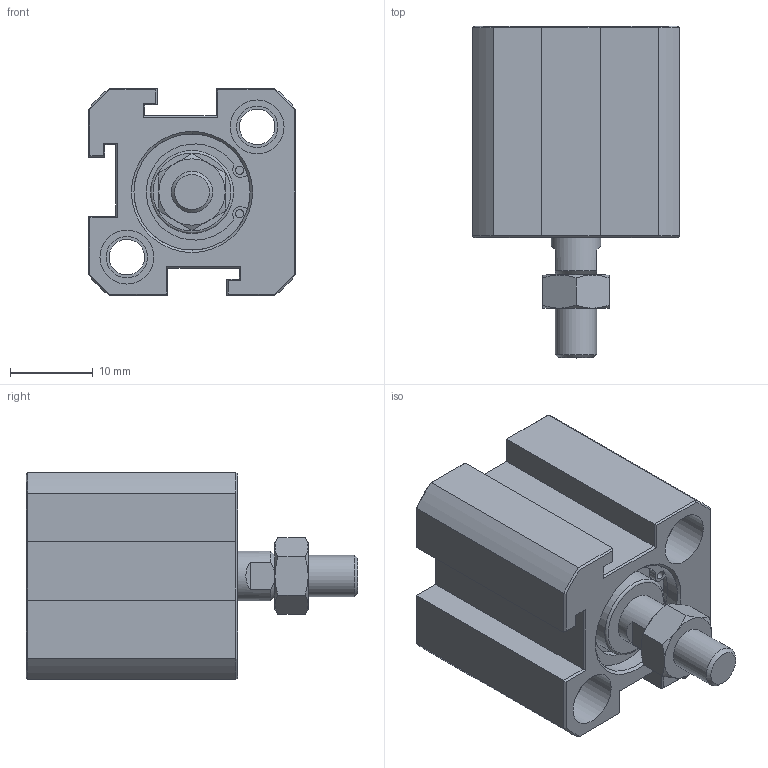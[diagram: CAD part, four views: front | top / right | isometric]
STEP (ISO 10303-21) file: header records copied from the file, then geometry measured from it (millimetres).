
FILE_DESCRIPTION(/* description */ (''),/* implementation_level */ '2;1');
FILE_NAME(/* name */ 'AJC-SD12X5W',/* time_stamp */ '2019-07-05T09:35:46+08:00',/* author */ ('JEFF HUANG'),/* organization */ ('TAIWAN AMAC CLAMP INDUSTRIAL CO., LTD.'),/* preprocessor_version */ 'ST-DEVELOPER v16.7',/* originating_system */ 'DEX',/* authorisation */ $);
FILE_SCHEMA (('AUTOMOTIVE_DESIGN {1 0 10303 214 3 1 1}'));
Length unit declared in the file: millimetre
Products named in the file (1): AJC-SD12X5W
Bounding box: 25 x 40 x 25 mm (x, y, z)
Volume: 12283.6 mm3; surface area: 5893.4 mm2
Topology: 1 solids, 1 shells, 172 faces, 373 edges, 224 vertices
Faces by surface type: plane 107, cylinder 38, cone 25, torus 2
Full cylindrical faces by diameter (mm): 1 x4, 4.3 x2, 5 x7, 6 x1, 6.5 x4, 10 x2, 14 x2
Entity records: 5702 total; most frequent: CARTESIAN_POINT 867, DIRECTION 752, ORIENTED_EDGE 684, EDGE_CURVE 342, AXIS2_PLACEMENT_3D 281, EDGE_LOOP 224, FACE_BOUND 224, VERTEX_POINT 220
